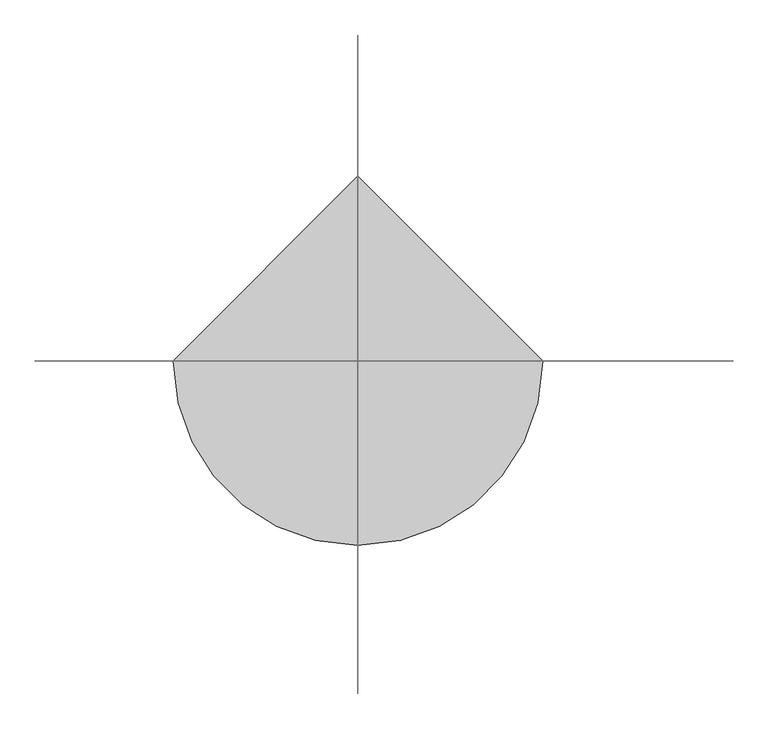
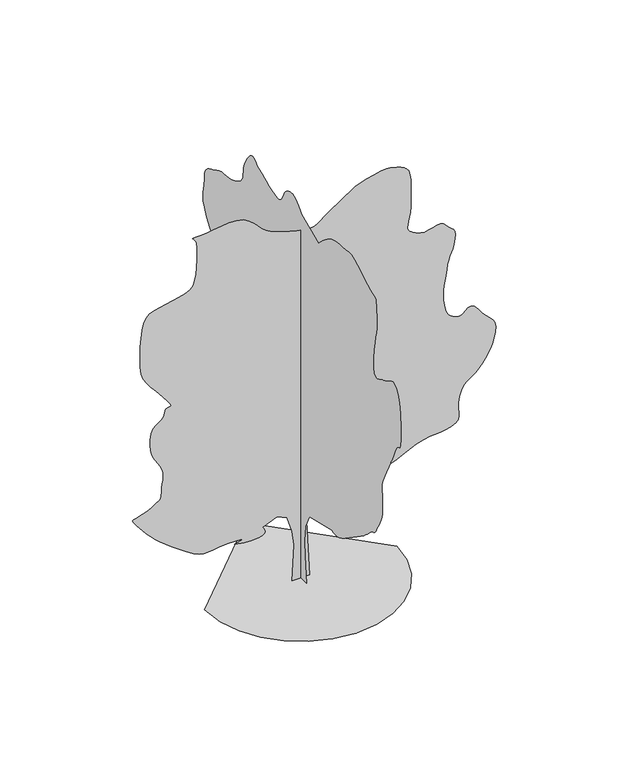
"""IFC4 building model written with IfcOpenShell, lengths in millimetres: geographic element geometry, RPC Arbre - Automne : Chêne écarlate - 12.5 mètres."""

from ifc_helpers import new_model, si_unit, origin, place, context, project, spatial, triangles, source, transform, mapped, element, save


def geographic_element_a8546ef5(model_context):
    return source(origin(), model_context, "Body", "Tessellation", [
        triangles([(0.0012978, 179.6018098, 0.0), (0.0012978, -196.6598166, 0.0), (0.0012978, -146.491449, 551.8504363), (0.0012978, -133.9497726, 865.4006653), (0.0012978, -159.0331344, 1178.9509306), (0.0012978, -309.5379012, 1467.4178432), (0.0012978, -1074.600832, 1655.5480751), (0.0012978, -1115.4109137, 1640.0446609), (0.0012978, -1159.1775736, 1628.2712517), (0.0012978, -1208.8709793, 1623.9546547), (0.0012978, -1267.4509792, 1630.8312698), (0.0012978, -1337.8744423, 1652.624707), (0.0012978, -1423.1077572, 1693.0646805), (0.0012978, -1526.1145512, 1755.8846832), (0.0012978, -1940.0014973, 2044.3516685), (0.0012978, -1998.5082458, 2085.4884018), (0.0012978, -2056.3550056, 2124.6483662), (0.0012978, -2114.4216648, 2164.4684647), (0.0012978, -2173.5850594, 2207.5818214), (0.0012978, -2234.7217346, 2256.6151657), (0.0012978, -2298.7118694, 2314.2052551), (0.0012978, -2366.4318638, 2382.9852139), (0.0012978, -2425.1186886, 2438.3453522), (0.0012978, -2465.8151871, 2463.4319023), (0.0012978, -2495.1052597, 2472.4987907), (0.0012978, -2519.5685921, 2479.8120071), (0.0012978, -2545.7853058, 2499.6320183), (0.0012978, -2580.3387199, 2546.2155121), (0.0012978, -2629.8121536, 2633.8287689), (0.0012978, -2683.6754356, 2733.8688835), (0.0012978, -2727.4454384, 2815.2656593), (0.0012978, -2761.7788078, 2888.5422913), (0.0012978, -2787.3388756, 2964.2356361), (0.0012978, -2804.7822876, 3052.8691795), (0.0012978, -2814.7622017, 3164.9791969), (0.0012978, -2817.9457283, 3311.0961502), (0.0012978, -2811.7289566, 3444.7362488), (0.0012978, -2798.932354, 3527.9361122), (0.0012978, -2788.3254433, 3583.9027542), (0.0012978, -2788.6922813, 3635.9362061), (0.0012978, -2808.8023911, 3707.2696426), (0.0012978, -2857.4357597, 3821.2030952), (0.0012978, -2943.3656891, 4000.9031731), (0.0012978, -3029.8057617, 4175.8032532), (0.0012978, -3082.0226326, 4277.403447), (0.0012978, -3111.8591835, 4332.3035843), (0.0012978, -3131.1658539, 4367.0035011), (0.0012978, -3151.7893044, 4408.0701805), (0.0012978, -3185.5759048, 4482.0368866), (0.0012978, -3244.3726067, 4615.4703117), (0.0012978, -3310.7761116, 4737.0704475), (0.0012978, -3360.9361313, 4783.6705101), (0.0012978, -3397.0693909, 4793.8373314), (0.0012978, -3421.3362236, 4806.2040184), (0.0012978, -3435.969342, 4859.3705406), (0.0012978, -3443.1360558, 4991.9371582), (0.0012978, -3445.0362305, 5242.570697), (0.0012978, -3432.2361397, 5525.8708466), (0.0012978, -3397.9361984, 5736.804483), (0.0012978, -3348.3026001, 5884.3047821), (0.0012978, -3289.4227638, 5977.4049133), (0.0012978, -3227.4791611, 6025.0717712), (0.0012978, -3168.6092079, 6036.337944), (0.0012978, -3118.9526459, 6020.171489), (0.0012978, -3075.9157379, 5993.3713806), (0.0012978, -3032.6590759, 5967.0049667), (0.0012978, -2988.9623245, 5941.5379166), (0.0012978, -2944.6089272, 5917.3382309), (0.0012978, -2899.3756416, 5894.937854), (0.0012978, -2853.0491089, 5874.7047867), (0.0012978, -2805.4023079, 5857.1378357), (0.0012978, -2751.2123016, 5831.571373), (0.0012978, -2689.7820396, 5798.5379242), (0.0012978, -2627.6922249, 5775.1713272), (0.0012978, -2571.5287926, 5778.5711197), (0.0012978, -2527.8686668, 5825.8711395), (0.0012978, -2503.2954575, 5934.1383682), (0.0012978, -2504.3919022, 6120.5048996), (0.0012978, -2524.4685837, 6324.7052261), (0.0012978, -2549.8086067, 6483.9053925), (0.0012978, -2576.4654099, 6611.505162), (0.0012978, -2600.4886528, 6720.9054611), (0.0012978, -2617.9320648, 6825.5054718), (0.0012978, -2624.8421082, 6938.6386826), (0.0012978, -2617.2722214, 7073.7054382), (0.0012978, -2606.7786758, 7203.3056671), (0.0012978, -2602.4254532, 7296.4726547), (0.0012978, -2596.5388939, 7361.3390442), (0.0012978, -2581.4386528, 7406.0060852), (0.0012978, -2549.4420593, 7438.6395584), (0.0012978, -2492.8754539, 7467.3058319), (0.0012978, -2404.0586369, 7500.1392929), (0.0012978, -2294.5419205, 7548.5061081), (0.0012978, -2182.1784302, 7612.2394272), (0.0012978, -2068.7116642, 7682.1398117), (0.0012978, -1955.9082298, 7748.9398041), (0.0012978, -1845.5181656, 7803.4393845), (0.0012978, -1739.2947075, 7836.4728333), (0.0012978, -1638.994725, 7838.7732742), (0.0012978, -1540.997945, 7825.9060364), (0.0012978, -1441.6845303, 7817.2065674), (0.0012978, -1342.8110596, 7809.1396179), (0.0012978, -1246.1310596, 7798.2397018), (0.0012978, -1153.400964, 7781.0064514), (0.0012978, -1066.3742266, 7753.8726425), (0.0012978, -986.8074989, 7713.3396515), (0.0012978, -915.9440918, 7665.7059311), (0.0012978, -852.9773684, 7619.3727127), (0.0012978, -796.593964, 7574.1394272), (0.0012978, -745.4739012, 7529.8060867), (0.0012978, -698.3038879, 7486.1058472), (0.0012978, -653.7672169, 7442.8393021), (0.0012978, -610.5471806, 7399.8058823), (0.0012978, -21.0711498, 7650.6394089), (0.0012978, 29.9744899, 7706.6063416), (0.0012978, 80.9103956, 7759.8728577), (0.0012978, 131.6271037, 7807.606572), (0.0012978, 182.0144714, 7847.139624), (0.0012978, 231.963185, 7875.706485), (0.0012978, 281.3635672, 7890.5398819), (0.0012978, 330.1056138, 7888.9399796), (0.0012978, 376.910315, 7877.2063934), (0.0012978, 420.4236837, 7862.6061218), (0.0012978, 460.4270559, 7843.8398254), (0.0012978, 496.7003869, 7819.6064209), (0.0012978, 529.0237773, 7788.57285), (0.0012978, 557.1771097, 7749.4060547), (0.0012978, 580.9471341, 7700.8061142), (0.0012978, 603.617153, 7646.9059158), (0.0012978, 630.2371851, 7595.2061646), (0.0012978, 663.2205643, 7549.4391907), (0.0012978, 704.9772451, 7513.3059311), (0.0012978, 757.9239407, 7490.5392975), (0.0012978, 824.474021, 7484.9396393), (0.0012978, 907.0407108, 7500.1392929), (0.0012978, 996.954118, 7528.8392853), (0.0012978, 1084.2375257, 7560.8396576), (0.0012978, 1169.3242653, 7595.5730026), (0.0012978, 1252.6576962, 7632.5062134), (0.0012978, 1334.6743469, 7671.0730453), (0.0012978, 1415.8144524, 7710.7398102), (0.0012978, 1496.5146137, 7750.9728195), (0.0012978, 1534.2146381, 7785.2393326), (0.0012978, 1572.3512638, 7815.4398148), (0.0012978, 1611.367923, 7837.5396286), (0.0012978, 1651.6980194, 7847.4396057), (0.0012978, 1693.7880375, 7841.1062714), (0.0012978, 1738.0680382, 7814.5061508), (0.0012978, 1784.9814537, 7763.5063568), (0.0012978, 1830.9447819, 7701.0729584), (0.0012978, 1871.641571, 7641.6730957), (0.0012978, 1906.4148846, 7583.8394165), (0.0012978, 1934.6082218, 7525.9725998), (0.0012978, 1955.561594, 7466.6058746), (0.0012978, 1968.614867, 7404.1393387), (0.0012978, 1973.1115402, 7337.0725021), (0.0012978, 1977.9749062, 7269.4725586), (0.0012978, 1993.5883427, 7206.2723465), (0.0012978, 2021.4882385, 7147.205603), (0.0012978, 2063.2117092, 7092.1054779), (0.0012978, 2120.2883125, 7040.7388458), (0.0012978, 2194.2617043, 6992.8725815), (0.0012978, 2286.6618782, 6948.2723969), (0.0012978, 2385.2086246, 6914.9389664), (0.0012978, 2477.6086533, 6896.5057892), (0.0012978, 2565.4021317, 6886.4058243), (0.0012978, 2650.1254486, 6878.0720306), (0.0012978, 2733.3122314, 6864.9053925), (0.0012978, 2816.4990143, 6840.3388687), (0.0012978, 2901.2223312, 6797.7722809), (0.0012978, 2987.3356796, 6752.4390015), (0.0012978, 3071.0326057, 6717.6388), (0.0012978, 3148.3691643, 6683.905394), (0.0012978, 3215.395887, 6641.8719131), (0.0012978, 3268.1592361, 6582.0389374), (0.0012978, 3302.7126503, 6495.0052963), (0.0012978, 3315.1092773, 6371.3384262), (0.0012978, 3323.4459778, 6244.1049133), (0.0012978, 3341.8692719, 6144.2714722), (0.0012978, 3360.5361557, 6059.3714218), (0.0012978, 3369.5361877, 5976.871225), (0.0012978, 3359.0028191, 5884.3047821), (0.0012978, 3319.0593269, 5769.104837), (0.0012978, 3239.8560219, 5618.8378464), (0.0012978, 3141.8625847, 5468.0046112), (0.0012978, 3053.2990952, 5352.0378525), (0.0012978, 2975.9256203, 5259.8045288), (0.0012978, 2911.4955414, 5180.0373047), (0.0012978, 2861.7689255, 5101.6043015), (0.0012978, 2828.4921776, 5013.3038773), (0.0012978, 2813.4288528, 4903.9372971), (0.0012978, 2820.7789856, 4784.8038712), (0.0012978, 2849.1888794, 4674.2370735), (0.0012978, 2892.0821915, 4571.5369469), (0.0012978, 2942.8724052, 4476.1035278), (0.0012978, 2994.9756203, 4387.2702873), (0.0012978, 3041.8189819, 4304.3366867), (0.0012978, 3076.8124855, 4226.6702065), (0.0012978, 3110.7057655, 4174.1367851), (0.0012978, 3152.9392342, 4153.4034576), (0.0012978, 3194.9526581, 4144.0700157), (0.0012978, 3228.1924896, 4125.7365417), (0.0012978, 3244.0993675, 4078.0365463), (0.0012978, 3234.1159653, 3980.5032555), (0.0012978, 3189.6893166, 3812.7698891), (0.0012978, 3128.4790993, 3623.802935), (0.0012978, 3071.6558235, 3469.7027481), (0.0012978, 3015.9289925, 3340.8693329), (0.0012978, 2958.0089813, 3227.579155), (0.0012978, 2894.605584, 3120.2226265), (0.0012978, 2822.4221992, 3009.1358025), (0.0012978, 2738.1755974, 2884.6689812), (0.0012978, 2653.6720345, 2759.212104), (0.0012978, 2582.7720016, 2650.4289185), (0.0012978, 2525.2554543, 2556.5654617), (0.0012978, 2480.8985687, 2475.8619576), (0.0012978, 2449.4885674, 2406.5720009), (0.0012978, 2430.8052601, 2346.9318913), (0.0012978, 2424.6252594, 2295.1918808), (0.0012978, 2429.8919437, 2259.6851818), (0.0012978, 2442.1785484, 2243.0484066), (0.0012978, 2456.2186798, 2234.9685219), (0.0012978, 2466.7485603, 2225.1317677), (0.0012978, 2468.5054298, 2203.2284534), (0.0012978, 2456.2186798, 2158.9484528), (0.0012978, 2424.6252594, 2081.9782963), (0.0012978, 2398.3352943, 2000.7649395), (0.0012978, 2395.5186058, 1945.2215275), (0.0012978, 2401.2586624, 1907.2315498), (0.0012978, 2400.6386421, 1878.6715199), (0.0012978, 2378.7351826, 1851.4314674), (0.0012978, 2320.6318977, 1817.3881966), (0.0012978, 2211.4118202, 1768.4281036), (0.0012978, 2092.3884167, 1718.4047035), (0.0012978, 2005.618277, 1683.0814236), (0.0012978, 1937.2782623, 1657.1946316), (0.0012978, 1873.5447979, 1635.4745911), (0.0012978, 1800.5947449, 1612.6579605), (0.0012978, 1704.6113594, 1583.4779102), (0.0012978, 1571.7678692, 1542.671244), (0.0012978, 1438.4111835, 1503.5445625), (0.0012978, 1341.9144573, 1479.9945465), (0.0012978, 1269.9910858, 1467.637888), (0.0012978, 1210.3509762, 1462.0779076), (0.0012978, 1150.714282, 1458.9344948), (0.0012978, 1078.7875677, 1453.8144585), (0.0012978, 982.2907688, 1442.3344906), (0.0012978, 869.4140104, 1424.0145332), (0.0012978, 756.5339092, 1401.7445263), (0.0012978, 643.6571508, 1376.1878014), (0.0012978, 530.777086, 1347.9944641), (0.0012978, 417.9003276, 1317.8277008), (0.0012978, 305.0218978, 1286.3443027), (0.0012978, 192.1434862, 1254.2044041), (178.7194691, 0.0004139, 0.0184619), (-172.4568063, 0.0004139, 0.0184619), (-134.8307781, 0.00037, 739.9972733), (-172.4568063, 0.0003533, 1041.0075336), (-272.7932146, 0.0003345, 1354.5577263), (-473.4670667, 0.0003282, 1454.8944798), (-761.933943, 0.0003345, 1329.4743736), (-738.457251, 0.0003365, 1297.3309868), (-719.260603, 0.0003386, 1265.8510769), (-708.6205547, 0.0003407, 1235.6843136), (-710.8138802, 0.0003428, 1207.4909763), (-730.1206232, 0.0003449, 1181.9309813), (-770.817267, 0.0003449, 1159.6642445), (-837.184001, 0.000347, 1141.3442871), (-915.2507475, 0.000347, 1129.2408834), (-988.7141413, 0.000347, 1124.3775902), (-1058.334165, 0.000347, 1125.5475769), (-1124.8842453, 0.000347, 1131.5442312), (-1189.1309778, 0.000347, 1141.1609407), (-1251.8410309, 0.0003449, 1153.1909477), (-1313.7810001, 0.0003449, 1166.4276398), (-1251.0343941, 0.0003449, 1182.4076237), (-1198.8209387, 0.0003428, 1197.5076468), (-1167.6642649, 0.0003428, 1210.8542885), (-1168.1042816, 0.0003407, 1221.567588), (-1210.667672, 0.0003407, 1228.7709274), (-1305.8843891, 0.0003407, 1231.587616), (-1464.2844589, 0.0003407, 1229.1376202), (-1631.1713654, 0.0003428, 1217.6209539), (-1755.0581348, 0.0003428, 1199.9576426), (-1851.2981907, 0.0003428, 1185.3676174), (-1935.2514965, 0.0003428, 1183.0642696), (-2022.2783066, 0.0003428, 1202.2609903), (-2127.7350964, 0.0003407, 1252.1742954), (-2266.9751438, 0.0003345, 1342.0144512), (-2421.3552555, 0.0003282, 1451.2378716), (-2562.1354706, 0.0003219, 1553.8779728), (-2689.5288574, 0.0003156, 1651.031345), (-2803.7588036, 0.0003115, 1743.8014091), (-2905.0491325, 0.0003052, 1833.2748722), (-2993.6091339, 0.0002989, 1920.5582073), (-3069.6658287, 0.0002947, 2006.7449524), (-3138.8491058, 0.0002906, 2090.1116661), (-3203.8625793, 0.0002843, 2166.9017464), (-3260.5393524, 0.0002801, 2235.1317387), (-3304.7093307, 0.000278, 2292.8318504), (-3332.2059082, 0.0002759, 2338.0285103), (-3338.869455, 0.0002738, 2368.74524), (-3320.506041, 0.0002717, 2383.0052708), (-3279.1893768, 0.0002717, 2392.0352428), (-3223.3892944, 0.0002717, 2407.6486794), (-3158.5926682, 0.0002697, 2428.7486996), (-3090.2892792, 0.0002676, 2454.2353706), (-3023.9590256, 0.0002655, 2483.0121025), (-2965.0890724, 0.0002655, 2513.9820145), (-2919.1622246, 0.0002634, 2546.05215), (-2883.182444, 0.0002613, 2570.4021172), (-2850.9288895, 0.0002613, 2584.2254013), (-2823.0654739, 0.0002592, 2595.415416), (-2800.2488434, 0.0002592, 2611.8687721), (-2783.1388412, 0.0002571, 2641.4887665), (-2772.388916, 0.0002529, 2692.1688126), (-2768.6589111, 0.0002488, 2771.8090096), (-2763.4656235, 0.0002446, 2862.2723831), (-2751.6922142, 0.0002383, 2942.6424774), (-2739.0389168, 0.0002341, 3016.6524948), (-2731.2155571, 0.0002299, 3088.0292427), (-2733.9220779, 0.0002258, 3160.5024353), (-2752.8622009, 0.0002216, 3237.7991707), (-2793.7422638, 0.0002153, 3323.6561394), (-2845.6655479, 0.0002111, 3407.7693192), (-2892.7623825, 0.0002069, 3482.0028694), (-2933.2756073, 0.0002028, 3553.3694435), (-2965.4556198, 0.0001986, 3628.9029144), (-2987.5391556, 0.0001923, 3715.6362831), (-2997.7792282, 0.000186, 3820.5697037), (-2994.4157707, 0.0001798, 3950.7698959), (-2971.8523224, 0.0001714, 4071.9031998), (-2930.6423378, 0.0001672, 4153.5365891), (-2878.245536, 0.000163, 4208.4367264), (-2822.1155319, 0.000161, 4249.2699898), (-2769.7190208, 0.0001589, 4288.8033325), (-2728.5087456, 0.0001547, 4339.7368515), (-2705.9487854, 0.0001505, 4414.8034904), (-2682.3621437, 0.0001484, 4479.0370697), (-2643.202034, 0.0001463, 4503.0701958), (-2603.5986374, 0.0001463, 4508.2701691), (-2578.6987038, 0.0001442, 4515.8702866), (-2583.635321, 0.0001442, 4547.1704109), (-2633.5488441, 0.000138, 4623.4704048), (-2743.572361, 0.0001296, 4766.0038559), (-2875.8689369, 0.0001212, 4926.1371048), (-2983.3725494, 0.0001129, 5052.070697), (-3067.3991066, 0.0001066, 5160.2373505), (-3129.2691673, 0.0001003, 5267.0709457), (-3170.2960236, 9.41e-05, 5389.0710571), (-3191.795874, 8.36e-05, 5542.6378464), (-3195.0857895, 7.11e-05, 5744.2714691), (-3188.3591652, 5.85e-05, 5960.1048065), (-3176.5857559, 4.81e-05, 6145.6713867), (-3156.252404, 3.97e-05, 6301.4049042), (-3123.855835, 3.14e-05, 6427.738472), (-3075.8826004, 2.51e-05, 6525.1383408), (-3008.8189613, 2.09e-05, 6593.9719299), (-2919.1622246, 1.88e-05, 6634.7386276), (-2806.3188217, 1.67e-05, 6659.8388397), (-2678.3388428, 1.67e-05, 6683.372287), (-2544.6554329, 1.46e-05, 6708.4719177), (-2414.7018826, 1.25e-05, 6738.1718491), (-2297.9119183, 1.05e-05, 6775.5387543), (-2203.7183945, 8.4e-06, 6823.6387253), (-2141.5550377, 4.2e-06, 6885.6052917), (-2105.1350224, -2.1e-06, 6976.9392517), (-2080.5650105, -8.4e-06, 7101.8391861), (-2065.8650356, -1.67e-05, 7246.2722305), (-2059.0650146, -2.72e-05, 7396.206102), (-2058.1849812, -3.55e-05, 7537.5724731), (-2061.2583401, -4.18e-05, 7656.3396423), (-2066.3049797, -4.6e-05, 7738.4398636), (-2081.2582821, -5.02e-05, 7790.2396088), (-2107.6249866, -5.23e-05, 7828.6395905), (-2133.768449, -5.43e-05, 7855.6065491), (-2148.0651054, -5.43e-05, 7873.1729187), (-2138.88834, -5.64e-05, 7883.2397461), (-2094.6049965, -5.64e-05, 7887.8731842), (-2003.5949993, -5.64e-05, 7888.9731171), (-1875.0281376, -5.64e-05, 7897.4063232), (-1730.6680538, -5.85e-05, 7916.6063141), (-1577.7478821, -5.85e-05, 7937.3399323), (-1423.5144184, -5.85e-05, 7950.3728577), (-1275.2044304, -5.85e-05, 7946.5399521), (-1140.0575924, -5.85e-05, 7916.6063141), (-1025.3141602, -5.43e-05, 7851.339949), (-938.1807432, -4.81e-05, 7772.47267), (-873.4206699, -4.39e-05, 7705.6395401), (-819.6339821, -4.18e-05, 7647.6064545), (-765.4072775, -3.76e-05, 7595.0730331), (-699.3339123, -3.55e-05, 7544.7394775), (-610.0038271, -3.14e-05, 7493.2728516), (-486.0070716, -2.93e-05, 7437.4390503), (-342.3402595, -2.51e-05, 7385.0062042), (-204.3788404, -2.3e-05, 7345.0725952), (-76.2890661, -2.09e-05, 7316.3394653), (37.759364, -2.09e-05, 7297.4725937), (133.5984405, -2.09e-05, 7287.172641), (207.0588367, -1.88e-05, 7284.0728302), (253.9725429, -2.09e-05, 7286.9389343), (287.7592342, -2.09e-05, 7297.4057373), (324.6172497, -2.09e-05, 7316.8394348), (364.5469708, -2.3e-05, 7343.5395493), (407.5469988, -2.51e-05, 7375.7061905), (453.6203493, -2.72e-05, 7411.6394623), (502.7637523, -2.93e-05, 7449.5057556), (554.9804415, -3.14e-05, 7487.606337), (1056.6642088, -5.23e-05, 7826.2397369), (1089.7175692, -5.23e-05, 7838.5732864), (1176.7443066, -5.43e-05, 7869.5394196), (1299.5309978, -5.64e-05, 7910.1729858), (1439.8711235, -6.06e-05, 7951.439653), (1579.5512604, -6.06e-05, 7984.4062454), (1700.3646709, -6.27e-05, 8000.006456), (1784.1014202, -6.27e-05, 7989.3065277), (1847.1014992, -6.06e-05, 7966.7398819), (1914.9315159, -5.85e-05, 7948.5729675), (1983.201622, -5.85e-05, 7928.4061752), (2047.5183357, -5.64e-05, 7899.9398895), (2103.5016918, -5.43e-05, 7856.7396194), (2146.7583538, -5.02e-05, 7792.5063309), (2172.905159, -4.39e-05, 7700.8398331), (2185.4450912, -3.76e-05, 7598.1397064), (2191.8451366, -3.34e-05, 7502.939122), (2193.6351437, -2.72e-05, 7411.8725876), (2192.3551346, -2.3e-05, 7321.7059982), (2189.538446, -1.67e-05, 7229.138974), (2186.7251003, -1.05e-05, 7130.8391602), (2185.4450912, -4.2e-06, 7023.5724518), (2178.7883755, 2.1e-06, 6916.771994), (2162.9217567, 8.4e-06, 6822.0719604), (2143.9784363, 1.25e-05, 6739.2055069), (2128.1083294, 1.67e-05, 6668.0052017), (2121.4551018, 2.09e-05, 6608.172226), (2130.1583496, 2.3e-05, 6559.5385666), (2160.3617386, 2.51e-05, 6521.8716797), (2202.6318329, 2.72e-05, 6491.9054855), (2243.5851471, 2.93e-05, 6466.305304), (2283.4418713, 2.93e-05, 6444.8717285), (2322.4185619, 3.14e-05, 6427.4053528), (2360.7419495, 3.14e-05, 6413.6387512), (2398.6219048, 3.34e-05, 6403.4050735), (2436.2853035, 3.34e-05, 6396.4386383), (2484.3320801, 3.34e-05, 6400.4052567), (2548.8354103, 3.14e-05, 6417.3053879), (2623.2087776, 3.14e-05, 6438.572113), (2700.8755486, 2.93e-05, 6455.7053696), (2775.2489159, 2.93e-05, 6460.0719635), (2839.7522461, 3.14e-05, 6443.1718323), (2887.7990227, 3.34e-05, 6396.4386383), (2927.1457489, 3.55e-05, 6344.1052048), (2967.5857224, 3.76e-05, 6309.2718658), (3005.612471, 3.97e-05, 6281.9386505), (3037.7192322, 4.18e-05, 6251.9381561), (3060.3890694, 4.39e-05, 6209.2384369), (3070.1158012, 4.81e-05, 6143.7052277), (3063.3891769, 5.43e-05, 6045.271701), (3044.4824821, 6.06e-05, 5940.8716782), (3021.192334, 6.48e-05, 5858.204631), (2995.2657188, 6.9e-05, 5788.271109), (2968.462413, 7.32e-05, 5722.0379425), (2942.5389954, 7.73e-05, 5650.5376556), (2919.2456497, 8.36e-05, 5564.8045166), (2900.3424431, 8.99e-05, 5455.8041931), (2883.0824501, 9.62e-05, 5339.171196), (2865.1655205, 0.0001024, 5233.7043777), (2849.0022629, 0.0001087, 5135.2708511), (2837.0090996, 0.000115, 5039.6708725), (2831.5989647, 0.0001191, 4942.7703918), (2835.1821762, 0.0001254, 4840.4039658), (2850.1722496, 0.0001317, 4728.3703972), (2873.978936, 0.000138, 4626.0036804), (2902.3891205, 0.0001421, 4551.5370049), (2935.4057098, 0.0001463, 4499.0035835), (2973.0324829, 0.0001484, 4462.4703484), (3015.2656609, 0.0001505, 4436.0367874), (3062.1090225, 0.0001505, 4413.7369858), (3113.5558823, 0.0001526, 4389.7369972), (3166.0991867, 0.0001526, 4386.4703362), (3217.5492439, 0.0001505, 4417.4367599), (3269.8725037, 0.0001484, 4463.1037399), (3325.0525658, 0.0001463, 4503.9704315), (3385.0695419, 0.0001442, 4520.4368683), (3451.8695343, 0.0001463, 4493.0702248), (3527.4361427, 0.0001526, 4402.2702438), (3608.7361221, 0.0001589, 4291.3034706), (3687.8362358, 0.000163, 4208.603286), (3759.4362259, 0.0001672, 4142.6032448), (3818.369838, 0.0001714, 4081.6700455), (3859.2696671, 0.0001756, 4014.1366676), (3876.9363213, 0.0001798, 3928.3698097), (3866.0698334, 0.0001881, 3812.8030266), (3837.4698349, 0.0001944, 3688.4696274), (3804.7363678, 0.0002007, 3581.4694725), (3766.7029335, 0.0002069, 3487.669384), (3722.3030273, 0.0002111, 3402.83619), (3670.4364258, 0.0002153, 3322.8160744), (3610.0363335, 0.0002216, 3243.4691734), (3539.9693893, 0.0002258, 3160.6091148), (3467.7694359, 0.0002299, 3089.5259537), (3401.469413, 0.0002341, 3040.3824417), (3340.8693329, 0.0002362, 3001.3290115), (3285.7793816, 0.0002383, 2960.5224907), (3235.9394005, 0.0002404, 2906.1124397), (3191.1459137, 0.0002467, 2826.2556862), (3151.1826553, 0.0002529, 2709.0988838), (3129.6458885, 0.0002613, 2579.7288734), (3130.9257523, 0.0002676, 2469.6652428), (3140.9792084, 0.0002717, 2376.7152477), (3145.769323, 0.000278, 2298.6851269), (3131.2524765, 0.0002822, 2233.3785027), (3083.389119, 0.0002843, 2178.601759), (2988.1356308, 0.0002864, 2132.1650585), (2873.68564, 0.0002885, 2101.2650551), (2771.3023544, 0.0002906, 2087.698296), (2671.5488503, 0.0002906, 2081.1549454), (2564.9954704, 0.0002906, 2071.3183365), (2442.2087791, 0.0002926, 2047.8816856), (2293.7518524, 0.0002947, 2000.528326), (2110.1916904, 0.000301, 1918.9482765), (1910.3248203, 0.0003052, 1825.1214455), (1721.4280655, 0.0003094, 1747.3113693), (1546.7878532, 0.0003136, 1684.6380146), (1389.7044182, 0.0003177, 1636.2246906), (1253.4609901, 0.0003198, 1601.1945614), (1141.3509001, 0.0003198, 1578.6678841), (1056.6642088, 0.0003219, 1567.7713108), (529.8970888, 0.0003219, 1555.2312332), (141.09345, 0.0003261, 1492.5212528), (116.0100973, 0.0003449, 1153.884292), (-1907.8181419, 0.0, 0.0157863), (-1857.3815403, -437.1470089, 0.0157863), (-1713.7413254, -838.5940166, 0.0157863), (-1488.3944698, -1192.8442686, 0.0157863), (-1192.8442686, -1488.3944698, 0.0157863), (-838.5940166, -1713.7413254, 0.0157863), (-437.1470089, -1857.3815403, 0.0157863), (8.34e-05, -1907.8181419, 0.0157863), (437.1470089, -1857.3815403, 0.0157863), (838.5940166, -1713.7413254, 0.0157863), (1192.8442686, -1488.3944698, 0.0157863), (1488.3944698, -1192.8442686, 0.0157863), (1713.7413254, -838.5940166, 0.0157863), (1857.3815403, -437.1470089, 0.0157863), (1907.8181419, 0.0001672, 0.0157863), (-0.0002502, 1907.8181419, 0.0157863)], [[1, 2, 3], [254, 1, 3], [254, 3, 4], [254, 4, 5], [254, 5, 6], [53, 54, 55], [52, 53, 55], [201, 202, 203], [201, 203, 204], [200, 201, 204], [222, 223, 224], [52, 55, 56], [200, 204, 205], [199, 200, 205], [253, 254, 6], [221, 222, 224], [221, 224, 225], [229, 230, 231], [229, 231, 232], [228, 229, 232], [228, 232, 233], [227, 228, 233], [252, 253, 6], [221, 225, 226], [220, 221, 226], [199, 205, 206], [198, 199, 206], [62, 63, 64], [61, 62, 64], [61, 64, 65], [60, 61, 65], [60, 65, 66], [59, 60, 66], [59, 66, 67], [59, 67, 68], [58, 59, 68], [58, 68, 69], [58, 69, 70], [57, 58, 70], [57, 70, 71], [57, 71, 72], [57, 72, 73], [57, 73, 74], [56, 57, 74], [52, 56, 74], [51, 52, 74], [50, 51, 74], [50, 74, 75], [49, 50, 75], [48, 49, 75], [47, 48, 75], [46, 47, 75], [45, 46, 75], [44, 45, 75], [43, 44, 75], [42, 43, 75], [42, 75, 76], [41, 42, 76], [227, 233, 234], [226, 227, 234], [220, 226, 234], [219, 220, 234], [219, 234, 235], [219, 235, 236], [219, 236, 237], [218, 219, 237], [218, 237, 238], [218, 238, 239], [218, 239, 240], [217, 218, 240], [217, 240, 241], [217, 241, 242], [217, 242, 243], [217, 243, 244], [217, 244, 245], [217, 245, 246], [216, 217, 246], [216, 246, 247], [215, 216, 247], [215, 247, 248], [251, 252, 6], [88, 89, 90], [88, 90, 91], [87, 88, 91], [87, 91, 92], [86, 87, 92], [86, 92, 93], [85, 86, 93], [84, 85, 93], [84, 93, 94], [83, 84, 94], [82, 83, 94], [81, 82, 94], [81, 94, 95], [80, 81, 95], [80, 95, 96], [80, 96, 97], [80, 97, 98], [80, 98, 99], [80, 99, 100], [80, 100, 101], [80, 101, 102], [80, 102, 103], [80, 103, 104], [80, 104, 105], [80, 105, 106], [80, 106, 107], [80, 107, 108], [80, 108, 109], [80, 109, 110], [80, 110, 111], [80, 111, 112], [79, 80, 112], [79, 112, 113], [78, 79, 113], [77, 78, 113], [76, 77, 113], [41, 76, 113], [40, 41, 113], [40, 113, 114], [39, 40, 114], [198, 206, 207], [197, 198, 207], [196, 197, 207], [196, 207, 208], [195, 196, 208], [195, 208, 209], [195, 209, 210], [195, 210, 211], [194, 195, 211], [194, 211, 212], [194, 212, 213], [193, 194, 213], [193, 213, 214], [214, 215, 248], [193, 214, 248], [193, 248, 249], [192, 193, 249], [192, 249, 250], [192, 250, 251], [192, 251, 6], [192, 6, 7], [191, 192, 7], [190, 191, 7], [189, 190, 7], [38, 39, 114], [37, 38, 114], [36, 37, 114], [35, 36, 114], [34, 35, 114], [33, 34, 114], [32, 33, 114], [31, 32, 114], [30, 31, 114], [29, 30, 114], [28, 29, 114], [27, 28, 114], [26, 27, 114], [25, 26, 114], [24, 25, 114], [23, 24, 114], [22, 23, 114], [21, 22, 114], [20, 21, 114], [19, 20, 114], [18, 19, 114], [17, 18, 114], [16, 17, 114], [15, 16, 114], [14, 15, 114], [13, 14, 114], [12, 13, 114], [11, 12, 114], [10, 11, 114], [9, 10, 114], [8, 9, 114], [7, 8, 114], [189, 7, 114], [188, 189, 114], [188, 114, 115], [188, 115, 116], [188, 116, 117], [188, 117, 118], [188, 118, 119], [188, 119, 120], [188, 120, 121], [146, 147, 148], [145, 146, 148], [144, 145, 148], [144, 148, 149], [143, 144, 149], [143, 149, 150], [142, 143, 150], [142, 150, 151], [142, 151, 152], [141, 142, 152], [141, 152, 153], [141, 153, 154], [141, 154, 155], [141, 155, 156], [140, 141, 156], [140, 156, 157], [139, 140, 157], [138, 139, 157], [138, 157, 158], [137, 138, 158], [137, 158, 159], [136, 137, 159], [135, 136, 159], [135, 159, 160], [134, 135, 160], [134, 160, 161], [174, 175, 176], [173, 174, 176], [173, 176, 177], [172, 173, 177], [171, 172, 177], [171, 177, 178], [170, 171, 178], [170, 178, 179], [169, 170, 179], [168, 169, 179], [167, 168, 179], [166, 167, 179], [165, 166, 179], [165, 179, 180], [165, 180, 181], [165, 181, 182], [165, 182, 183], [165, 183, 184], [165, 184, 185], [165, 185, 186], [165, 186, 187], [164, 165, 187], [164, 187, 188], [163, 164, 188], [162, 163, 188], [161, 162, 188], [134, 161, 188], [133, 134, 188], [132, 133, 188], [125, 126, 127], [124, 125, 127], [124, 127, 128], [123, 124, 128], [122, 123, 128], [121, 122, 128], [121, 128, 129], [121, 129, 130], [121, 130, 131], [188, 121, 131], [132, 188, 131], [274, 275, 276], [531, 255, 256], [531, 256, 257], [531, 257, 258], [531, 258, 259], [530, 531, 259], [376, 377, 378], [376, 378, 379], [375, 376, 379], [273, 274, 276], [273, 276, 277], [375, 379, 380], [374, 375, 380], [273, 277, 278], [272, 273, 278], [301, 302, 303], [301, 303, 304], [300, 301, 304], [300, 304, 305], [299, 300, 305], [299, 305, 306], [298, 299, 306], [298, 306, 307], [297, 298, 307], [297, 307, 308], [271, 272, 278], [296, 297, 308], [296, 308, 309], [373, 374, 380], [373, 380, 381], [372, 373, 381], [295, 296, 309], [295, 309, 310], [294, 295, 310], [294, 310, 311], [294, 311, 312], [294, 312, 313], [293, 294, 313], [293, 313, 314], [292, 293, 314], [271, 278, 279], [291, 292, 314], [530, 259, 260], [372, 381, 382], [371, 372, 382], [291, 314, 315], [290, 291, 315], [371, 382, 383], [370, 371, 383], [370, 383, 384], [369, 370, 384], [369, 384, 385], [369, 385, 386], [369, 386, 387], [369, 387, 388], [369, 388, 389], [369, 389, 390], [368, 369, 390], [368, 390, 391], [367, 368, 391], [367, 391, 392], [367, 392, 393], [366, 367, 393], [366, 393, 394], [270, 271, 279], [366, 394, 395], [338, 339, 340], [338, 340, 341], [289, 290, 315], [483, 484, 485], [483, 485, 486], [482, 483, 486], [481, 482, 486], [481, 486, 487], [480, 481, 487], [288, 289, 315], [287, 288, 315], [286, 287, 315], [285, 286, 315], [284, 285, 315], [283, 284, 315], [282, 283, 315], [282, 315, 316], [281, 282, 316], [281, 316, 317], [281, 317, 318], [281, 318, 319], [281, 319, 320], [280, 281, 320], [280, 320, 321], [279, 280, 321], [279, 321, 322], [480, 487, 488], [264, 265, 266], [263, 264, 266], [263, 266, 267], [262, 263, 267], [262, 267, 268], [261, 262, 268], [261, 268, 269], [261, 269, 270], [261, 270, 279], [261, 279, 322], [260, 261, 322], [530, 260, 322], [530, 322, 323], [529, 530, 323], [529, 323, 324], [366, 395, 396], [365, 366, 396], [337, 338, 341], [337, 341, 342], [529, 324, 325], [528, 529, 325], [527, 528, 325], [526, 527, 325], [525, 526, 325], [524, 525, 325], [523, 524, 325], [522, 523, 325], [521, 522, 325], [521, 325, 326], [521, 326, 327], [521, 327, 328], [521, 328, 329], [521, 329, 330], [521, 330, 331], [521, 331, 332], [521, 332, 333], [521, 333, 334], [521, 334, 335], [521, 335, 336], [521, 336, 337], [521, 337, 342], [520, 521, 342], [520, 342, 343], [519, 520, 343], [518, 519, 343], [518, 343, 344], [517, 518, 344], [449, 450, 451], [448, 449, 451], [448, 451, 452], [447, 448, 452], [446, 447, 452], [446, 452, 453], [516, 517, 344], [515, 516, 344], [514, 515, 344], [513, 514, 344], [512, 513, 344], [511, 512, 344], [510, 511, 344], [509, 510, 344], [508, 509, 344], [507, 508, 344], [506, 507, 344], [505, 506, 344], [504, 505, 344], [503, 504, 344], [502, 503, 344], [501, 502, 344], [500, 501, 344], [499, 500, 344], [498, 499, 344], [497, 498, 344], [496, 497, 344], [495, 496, 344], [494, 495, 344], [493, 494, 344], [492, 493, 344], [491, 492, 344], [490, 491, 344], [489, 490, 344], [488, 489, 344], [480, 488, 344], [479, 480, 344], [478, 479, 344], [477, 478, 344], [476, 477, 344], [475, 476, 344], [474, 475, 344], [473, 474, 344], [472, 473, 344], [471, 472, 344], [470, 471, 344], [469, 470, 344], [468, 469, 344], [467, 468, 344], [466, 467, 344], [465, 466, 344], [464, 465, 344], [463, 464, 344], [463, 344, 345], [462, 463, 345], [462, 345, 346], [461, 462, 346], [460, 461, 346], [459, 460, 346], [458, 459, 346], [457, 458, 346], [456, 457, 346], [455, 456, 346], [454, 455, 346], [453, 454, 346], [446, 453, 346], [445, 446, 346], [444, 445, 346], [443, 444, 346], [442, 443, 346], [441, 442, 346], [440, 441, 346], [439, 440, 346], [438, 439, 346], [437, 438, 346], [436, 437, 346], [435, 436, 346], [435, 346, 347], [435, 347, 348], [435, 348, 349], [435, 349, 350], [435, 350, 351], [435, 351, 352], [435, 352, 353], [435, 353, 354], [435, 354, 355], [435, 355, 356], [435, 356, 357], [435, 357, 358], [435, 358, 359], [435, 359, 360], [435, 360, 361], [435, 361, 362], [435, 362, 363], [435, 363, 364], [435, 364, 365], [435, 365, 396], [435, 396, 397], [435, 397, 398], [435, 398, 399], [435, 399, 400], [435, 400, 401], [435, 401, 402], [435, 402, 403], [435, 403, 404], [435, 404, 405], [435, 405, 406], [435, 406, 407], [435, 407, 408], [435, 408, 409], [434, 435, 409], [433, 434, 409], [432, 433, 409], [431, 432, 409], [430, 431, 409], [429, 430, 409], [429, 409, 410], [429, 410, 411], [429, 411, 412], [428, 429, 412], [428, 412, 413], [427, 428, 413], [426, 427, 413], [426, 413, 414], [425, 426, 414], [425, 414, 415], [425, 415, 416], [425, 416, 417], [424, 425, 417], [424, 417, 418], [423, 424, 418], [423, 418, 419], [422, 423, 419], [422, 419, 420], [421, 422, 420], [546, 547, 532], [545, 546, 532], [545, 532, 533], [544, 545, 533], [544, 533, 534], [544, 534, 535], [543, 544, 535], [542, 543, 535], [542, 535, 536], [542, 536, 537], [542, 537, 538], [542, 538, 539], [542, 539, 540], [542, 540, 541]], closed=False),
    ])


if __name__ == "__main__":
    model = new_model("IFC4")
    model_context = context("Model", 3, world=origin())
    ifc_project = project(units=[si_unit("LENGTHUNIT", "METRE", prefix="MILLI")], contexts=[model_context])
    site = spatial("IfcSite", under=ifc_project)
    building = spatial("IfcBuilding", under=site)
    placement = place(None, origin())
    geographic_element_shape = geographic_element_a8546ef5(model_context)
    element("IfcGeographicElement", 1, ObjectType="RPC Arbre - Automne : Chêne écarlate - 12.5 mètres", at=placement, inside=building, context=model_context, shape_type="MappedRepresentation", body=[
        mapped(geographic_element_shape, transform((0.0, 0.0, 0.0), x_axis=(1.0, 0.0, 0.0), y_axis=(0.0, 1.0, 0.0), z_axis=(0.0, 0.0, 1.0))),
    ])
    save(model, "model.ifc")
